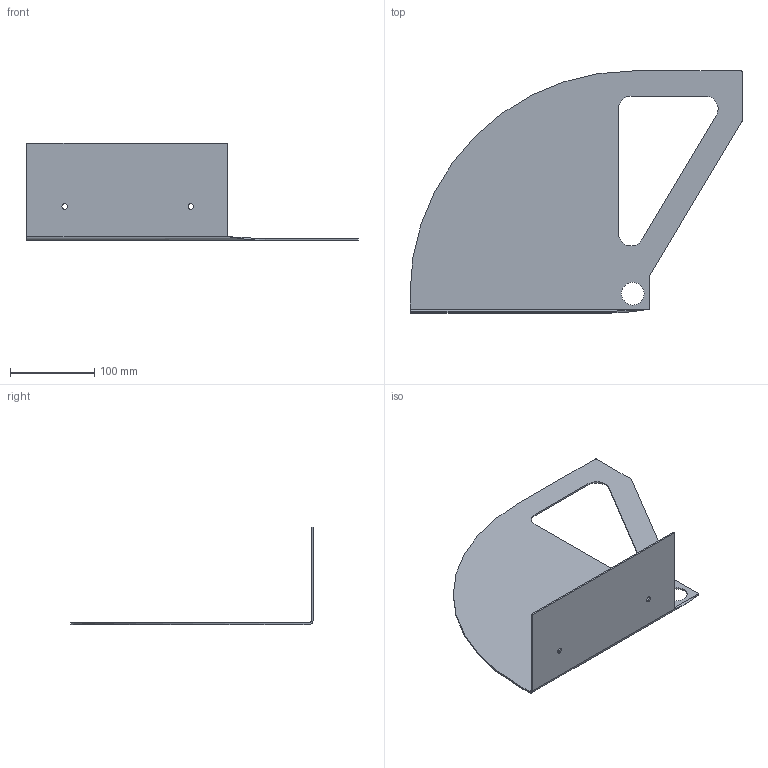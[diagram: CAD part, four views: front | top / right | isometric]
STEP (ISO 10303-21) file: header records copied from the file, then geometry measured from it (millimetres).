
FILE_DESCRIPTION (( 'STEP AP203' ), '1' );
FILE_NAME ('0601A Flanc.STEP', '2014-03-12T16:51:42', ( '' ), ( '' ), 'SwSTEP 2.0', 'SolidWorks 2014', '' );
FILE_SCHEMA (( 'CONFIG_CONTROL_DESIGN' ));
Length unit declared in the file: millimetre
Products named in the file (1): 0601A Flanc
Bounding box: 395 x 288 x 115.5 mm (x, y, z)
Volume: 192729.4 mm3; surface area: 196767.4 mm2
Topology: 1 solids, 1 shells, 33 faces, 85 edges, 54 vertices
Faces by surface type: cylinder 16, plane 15, bspline 2
Entity records: 1156 total; most frequent: CARTESIAN_POINT 255, ORIENTED_EDGE 170, DIRECTION 169, EDGE_CURVE 85, AXIS2_PLACEMENT_3D 60, VERTEX_POINT 54, VECTOR 49, LINE 49
